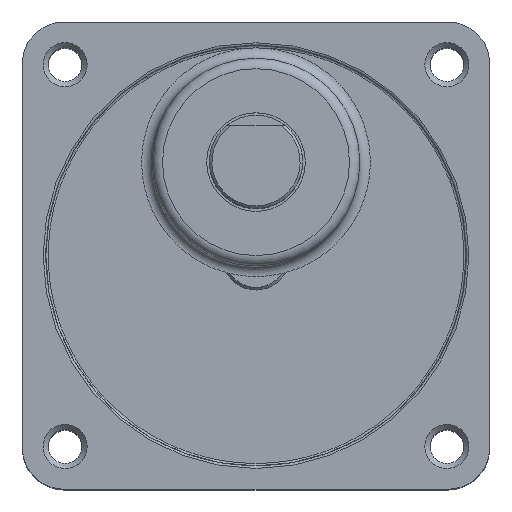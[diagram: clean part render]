
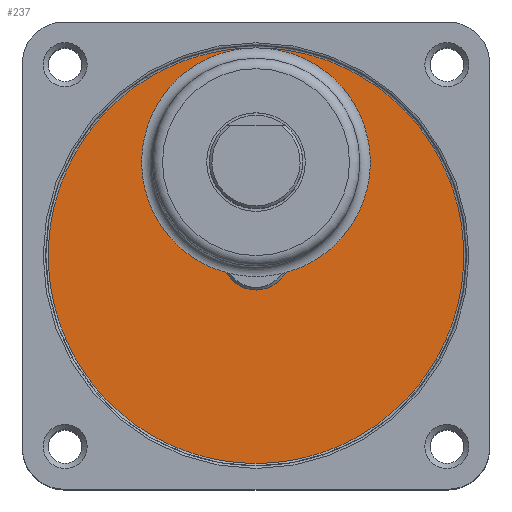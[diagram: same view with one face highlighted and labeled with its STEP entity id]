
A CAD part, top view. The second image highlights one B-rep face of the part: STEP entity #237.
In plain terms, the highlighted planar face has unit normal (0, 0, -1).
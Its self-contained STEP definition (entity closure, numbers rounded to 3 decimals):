
#186=CARTESIAN_POINT('',(-6.5,0.,3.5));
#187=VERTEX_POINT('',#186);
#188=CARTESIAN_POINT('',(0.0,0.0,3.5));
#189=DIRECTION('',(0.0,0.0,-1.0));
#190=DIRECTION('',(1.0,0.0,0.0));
#191=AXIS2_PLACEMENT_3D('',#188,#189,#190);
#192=CIRCLE('',#191,6.5);
#193=EDGE_CURVE('',#187,#187,#192,.T.);
#218=CARTESIAN_POINT('',(0.0,0.0,3.5));
#219=DIRECTION('',(0.0,0.0,1.0));
#220=DIRECTION('',(1.0,0.0,0.0));
#221=AXIS2_PLACEMENT_3D('',#218,#219,#220);
#222=PLANE('',#221);
#223=CARTESIAN_POINT('',(-41.5,0.,3.5));
#224=VERTEX_POINT('',#223);
#225=CARTESIAN_POINT('',(0.0,0.0,3.5));
#226=DIRECTION('',(0.0,0.0,-1.0));
#227=DIRECTION('',(1.0,0.0,0.0));
#228=AXIS2_PLACEMENT_3D('',#225,#226,#227);
#229=CIRCLE('',#228,41.5);
#230=EDGE_CURVE('',#224,#224,#229,.T.);
#231=ORIENTED_EDGE('',*,*,#230,.T.);
#232=EDGE_LOOP('',(#231));
#233=FACE_OUTER_BOUND('',#232,.T.);
#234=ORIENTED_EDGE('',*,*,#193,.F.);
#235=EDGE_LOOP('',(#234));
#236=FACE_BOUND('',#235,.T.);
#237=ADVANCED_FACE('',(#233,#236),#222,.F.);
